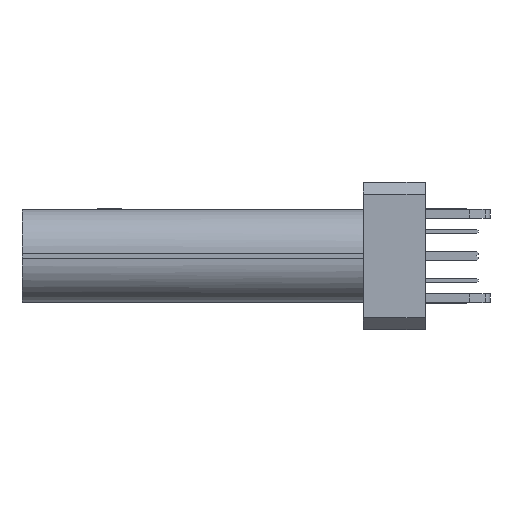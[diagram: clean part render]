
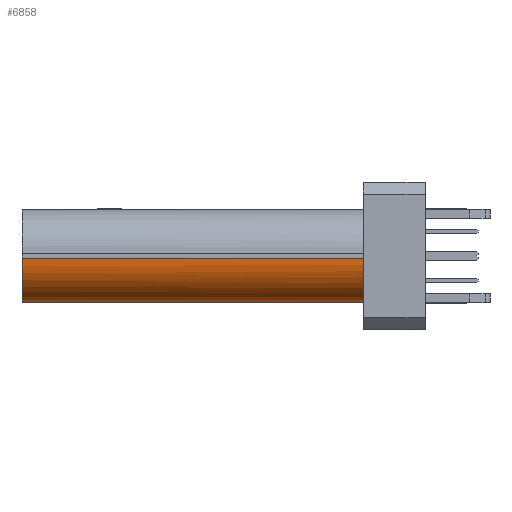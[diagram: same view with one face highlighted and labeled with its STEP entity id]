
A CAD part, left-side view. The second image highlights one B-rep face of the part: STEP entity #6858.
In plain terms, the highlighted cylindrical face has radius 1.5 mm (diameter 3 mm), a partial arc.
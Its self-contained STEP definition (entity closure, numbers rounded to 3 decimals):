
#1178 = DIRECTION ( 'NONE',  ( 0., 1., 0. ) ) ;
#1644 = CARTESIAN_POINT ( 'NONE',  ( -2.661, 16.948, 1.844 ) ) ;
#1987 = VERTEX_POINT ( 'NONE', #8039 ) ;
#2096 = ORIENTED_EDGE ( 'NONE', *, *, #15139, .T. ) ;
#3390 = VECTOR ( 'NONE', #1178, 1000. ) ;
#3412 = ORIENTED_EDGE ( 'NONE', *, *, #13220, .F. ) ;
#3471 = DIRECTION ( 'NONE',  ( 0., 0., -1. ) ) ;
#3498 = VECTOR ( 'NONE', #7209, 1000. ) ;
#4102 = VERTEX_POINT ( 'NONE', #15379 ) ;
#4142 = LINE ( 'NONE', #14740, #3498 ) ;
#4564 = DIRECTION ( 'NONE',  ( 0., -1., 0. ) ) ;
#5010 = AXIS2_PLACEMENT_3D ( 'NONE', #11706, #4564, #11903 ) ;
#6353 = CARTESIAN_POINT ( 'NONE',  ( -1.161, 20.348, 1.844 ) ) ;
#6457 = CYLINDRICAL_SURFACE ( 'NONE', #9000, 1.5 ) ;
#6824 = CARTESIAN_POINT ( 'NONE',  ( -1.161, 5.348, 1.844 ) ) ;
#6858 = ADVANCED_FACE ( 'NONE', ( #18228 ), #6457, .T. ) ;
#7209 = DIRECTION ( 'NONE',  ( 0., 1., 0. ) ) ;
#7890 = AXIS2_PLACEMENT_3D ( 'NONE', #6824, #12867, #14546 ) ;
#8039 = CARTESIAN_POINT ( 'NONE',  ( -1.161, 5.348, 0.344 ) ) ;
#8378 = CARTESIAN_POINT ( 'NONE',  ( -2.274, 5.348, 0.814 ) ) ;
#8575 = ORIENTED_EDGE ( 'NONE', *, *, #14007, .T. ) ;
#9000 = AXIS2_PLACEMENT_3D ( 'NONE', #6353, #12498, #3471 ) ;
#9667 = CARTESIAN_POINT ( 'NONE',  ( -2.099, 5.348, 0.674 ) ) ;
#9943 = VERTEX_POINT ( 'NONE', #1644 ) ;
#10243 = CARTESIAN_POINT ( 'NONE',  ( -1.161, 16.948, 0.344 ) ) ;
#10395 = CIRCLE ( 'NONE', #5010, 1.5 ) ;
#11255 = CARTESIAN_POINT ( 'NONE',  ( -2.416, 5.348, 0.994 ) ) ;
#11484 = LINE ( 'NONE', #14830, #3390 ) ;
#11706 = CARTESIAN_POINT ( 'NONE',  ( -1.161, 16.948, 1.844 ) ) ;
#11903 = DIRECTION ( 'NONE',  ( 0., 0., -1. ) ) ;
#12119 = VERTEX_POINT ( 'NONE', #19252 ) ;
#12391 = VERTEX_POINT ( 'NONE', #10243 ) ;
#12498 = DIRECTION ( 'NONE',  ( 0., -1., 0. ) ) ;
#12732 = ORIENTED_EDGE ( 'NONE', *, *, #14270, .T. ) ;
#12867 = DIRECTION ( 'NONE',  ( 0., 1., 0. ) ) ;
#13130 = B_SPLINE_CURVE_WITH_KNOTS ( 'NONE', 3,
 ( #9667, #8378, #11255, #17571, #15896, #17276 ),
 .UNSPECIFIED., .F., .F.,
 ( 4, 2, 4 ),
 ( 0., 0.5, 1. ),
 .UNSPECIFIED. ) ;
#13220 = EDGE_CURVE ( 'NONE', #1987, #12391, #4142, .T. ) ;
#13897 = CIRCLE ( 'NONE', #7890, 1.5 ) ;
#14007 = EDGE_CURVE ( 'NONE', #9943, #12391, #10395, .T. ) ;
#14270 = EDGE_CURVE ( 'NONE', #1987, #12119, #13897, .T. ) ;
#14546 = DIRECTION ( 'NONE',  ( 0., 0., -1. ) ) ;
#14740 = CARTESIAN_POINT ( 'NONE',  ( -1.161, 20.348, 0.344 ) ) ;
#14830 = CARTESIAN_POINT ( 'NONE',  ( -2.661, 20.348, 1.844 ) ) ;
#15139 = EDGE_CURVE ( 'NONE', #12119, #4102, #13130, .T. ) ;
#15157 = ORIENTED_EDGE ( 'NONE', *, *, #17151, .T. ) ;
#15379 = CARTESIAN_POINT ( 'NONE',  ( -2.661, 5.348, 1.844 ) ) ;
#15896 = CARTESIAN_POINT ( 'NONE',  ( -2.661, 5.348, 1.621 ) ) ;
#17147 = EDGE_LOOP ( 'NONE', ( #12732, #2096, #15157, #8575, #3412 ) ) ;
#17151 = EDGE_CURVE ( 'NONE', #4102, #9943, #11484, .T. ) ;
#17276 = CARTESIAN_POINT ( 'NONE',  ( -2.661, 5.348, 1.844 ) ) ;
#17571 = CARTESIAN_POINT ( 'NONE',  ( -2.61, 5.348, 1.397 ) ) ;
#18228 = FACE_OUTER_BOUND ( 'NONE', #17147, .T. ) ;
#19252 = CARTESIAN_POINT ( 'NONE',  ( -2.099, 5.348, 0.674 ) ) ;
